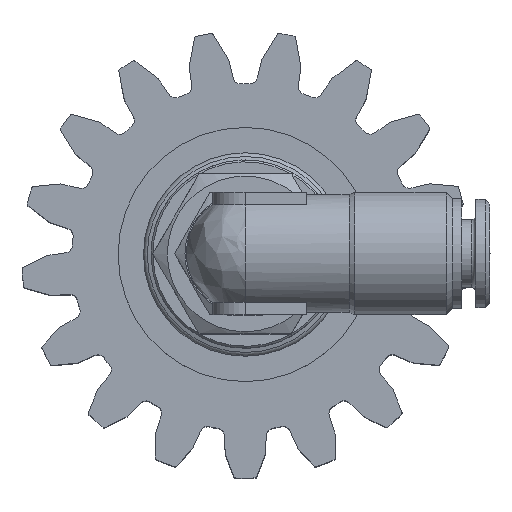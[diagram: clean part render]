
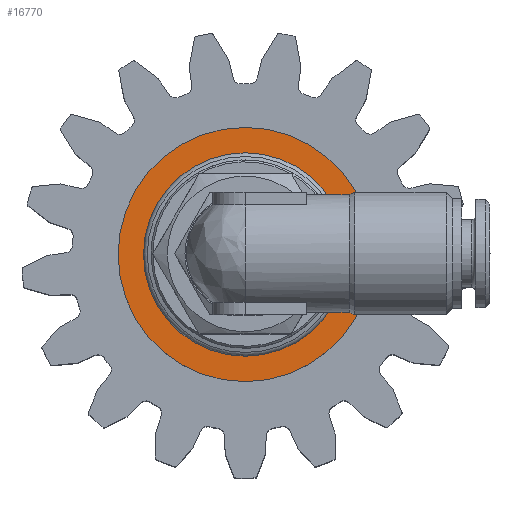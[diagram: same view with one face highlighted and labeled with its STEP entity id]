
A CAD part, top view. The second image highlights one B-rep face of the part: STEP entity #16770.
In plain terms, the highlighted planar face has unit normal (0, 0, 1) as drawn and (0, 1, 0) by its records, which use the part's own axes.
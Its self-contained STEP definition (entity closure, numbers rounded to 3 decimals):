
#3042 = CARTESIAN_POINT ( 'NONE',  ( 0., 0.6, 13.5 ) ) ;
#4141 = AXIS2_PLACEMENT_3D ( 'NONE', #9019, #18333, #23054 ) ;
#5183 = VERTEX_POINT ( 'NONE', #3042 ) ;
#5196 = ORIENTED_EDGE ( 'NONE', *, *, #12093, .F. ) ;
#6383 = CARTESIAN_POINT ( 'NONE',  ( 0., 0.6, 0. ) ) ;
#8338 = CARTESIAN_POINT ( 'NONE',  ( 0., 0.6, 0. ) ) ;
#8513 = ORIENTED_EDGE ( 'NONE', *, *, #24170, .T. ) ;
#9019 = CARTESIAN_POINT ( 'NONE',  ( 13.5, 0.6, 0. ) ) ;
#9172 = CARTESIAN_POINT ( 'NONE',  ( 0., 0.6, 10.8 ) ) ;
#9696 = AXIS2_PLACEMENT_3D ( 'NONE', #6383, #29562, #20408 ) ;
#12093 = EDGE_CURVE ( 'NONE', #22900, #22900, #21869, .T. ) ;
#16173 = PLANE ( 'NONE',  #4141 ) ;
#16770 = ADVANCED_FACE ( 'NONE', ( #18470, #25048 ), #16173, .F. ) ;
#18111 = DIRECTION ( 'NONE',  ( 0., 0., 1. ) ) ;
#18333 = DIRECTION ( 'NONE',  ( 0., -1., 0. ) ) ;
#18470 = FACE_BOUND ( 'NONE', #26616, .T. ) ;
#19118 = CIRCLE ( 'NONE', #23030, 13.5 ) ;
#20408 = DIRECTION ( 'NONE',  ( 0., 0., 1. ) ) ;
#21369 = EDGE_LOOP ( 'NONE', ( #8513 ) ) ;
#21869 = CIRCLE ( 'NONE', #9696, 10.8 ) ;
#22900 = VERTEX_POINT ( 'NONE', #9172 ) ;
#23030 = AXIS2_PLACEMENT_3D ( 'NONE', #8338, #26966, #18111 ) ;
#23054 = DIRECTION ( 'NONE',  ( 0., 0., -1. ) ) ;
#24170 = EDGE_CURVE ( 'NONE', #5183, #5183, #19118, .T. ) ;
#25048 = FACE_OUTER_BOUND ( 'NONE', #21369, .T. ) ;
#26616 = EDGE_LOOP ( 'NONE', ( #5196 ) ) ;
#26966 = DIRECTION ( 'NONE',  ( 0., 1., 0. ) ) ;
#29562 = DIRECTION ( 'NONE',  ( 0., 1., 0. ) ) ;
